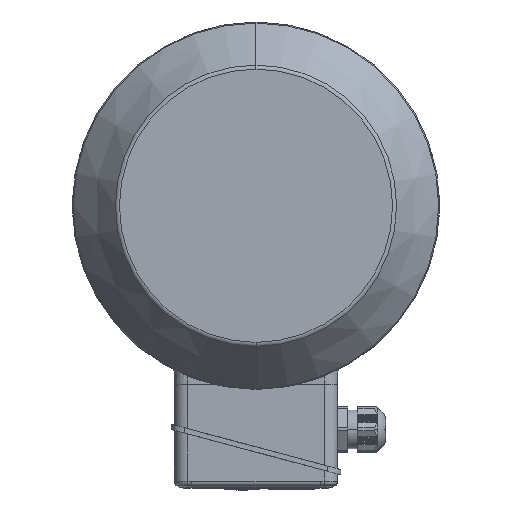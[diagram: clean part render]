
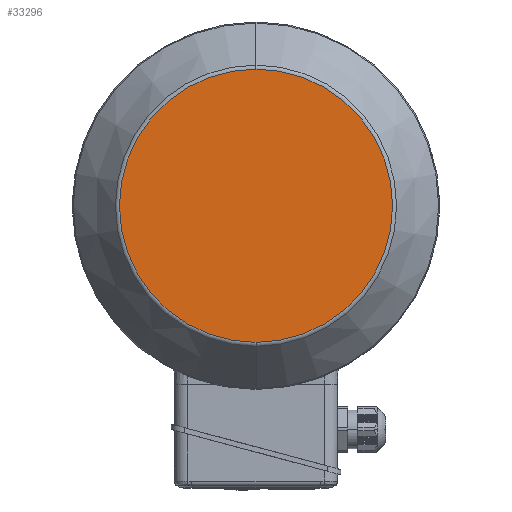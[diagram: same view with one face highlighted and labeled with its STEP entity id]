
A CAD part, left-side view. The second image highlights one B-rep face of the part: STEP entity #33296.
In plain terms, the highlighted planar face has unit normal (-1, 0, 0).
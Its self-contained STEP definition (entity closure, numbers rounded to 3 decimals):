
#206 = AXIS2_PLACEMENT_3D ( 'NONE', #26059, #13724, #31900 ) ;
#340 = FACE_OUTER_BOUND ( 'NONE', #24427, .T. ) ;
#1292 = CARTESIAN_POINT ( 'NONE',  ( -220., 0., 81.227 ) ) ;
#3374 = CIRCLE ( 'NONE', #26863, 81.227 ) ;
#7576 = AXIS2_PLACEMENT_3D ( 'NONE', #17942, #8925, #14913 ) ;
#8707 = DIRECTION ( 'NONE',  ( 1., 0., 0. ) ) ;
#8925 = DIRECTION ( 'NONE',  ( 1., 0., 0. ) ) ;
#12007 = CARTESIAN_POINT ( 'NONE',  ( -220., 0., 0. ) ) ;
#13724 = DIRECTION ( 'NONE',  ( -1., 0., 0. ) ) ;
#14913 = DIRECTION ( 'NONE',  ( 0., 0., -1. ) ) ;
#17828 = ORIENTED_EDGE ( 'NONE', *, *, #33588, .F. ) ;
#17942 = CARTESIAN_POINT ( 'NONE',  ( -220., 0., 0. ) ) ;
#20193 = ORIENTED_EDGE ( 'NONE', *, *, #22626, .F. ) ;
#22479 = PLANE ( 'NONE',  #206 ) ;
#22626 = EDGE_CURVE ( 'NONE', #26210, #26028, #3374, .T. ) ;
#24427 = EDGE_LOOP ( 'NONE', ( #17828, #20193 ) ) ;
#26028 = VERTEX_POINT ( 'NONE', #27820 ) ;
#26059 = CARTESIAN_POINT ( 'NONE',  ( -220., 0., -81.227 ) ) ;
#26210 = VERTEX_POINT ( 'NONE', #1292 ) ;
#26863 = AXIS2_PLACEMENT_3D ( 'NONE', #12007, #8707, #29947 ) ;
#27820 = CARTESIAN_POINT ( 'NONE',  ( -220., 0., -81.227 ) ) ;
#29947 = DIRECTION ( 'NONE',  ( 0., 0., -1. ) ) ;
#31626 = CIRCLE ( 'NONE', #7576, 81.227 ) ;
#31900 = DIRECTION ( 'NONE',  ( 0., 1., 0. ) ) ;
#33296 = ADVANCED_FACE ( 'NONE', ( #340 ), #22479, .T. ) ;
#33588 = EDGE_CURVE ( 'NONE', #26028, #26210, #31626, .T. ) ;
